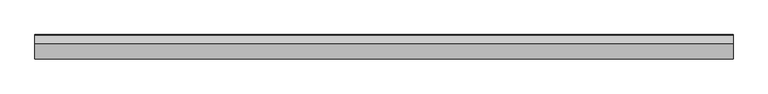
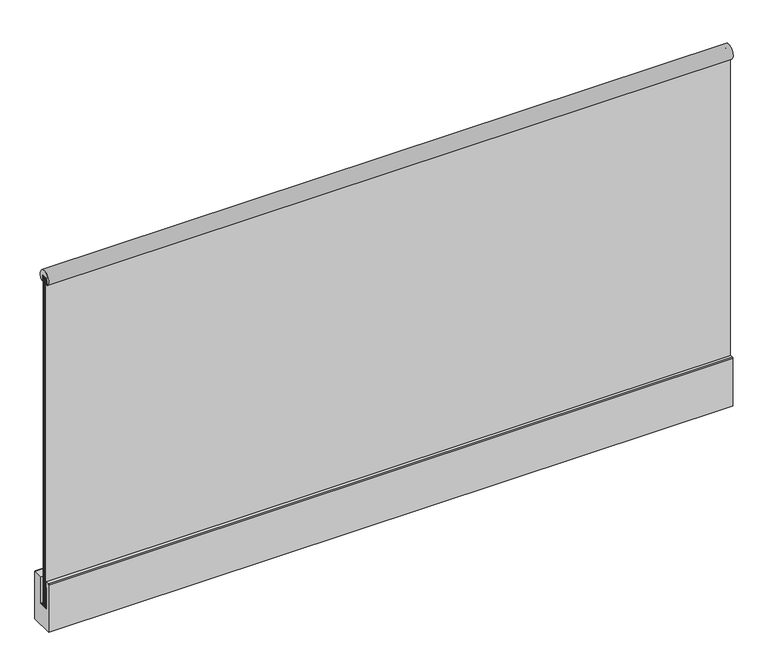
"""IFC4 building model written with IfcOpenShell, lengths in millimetres: railing geometry, Glass Railing (8+8) - Faraone - Ninfa 186 - Fascia mounted - Elipse Handrail 50."""

from ifc_helpers import new_model, si_unit, point, frame, frame_2d, origin, place, context, project, spatial, polyline, circle_curve, trimmed, segment, composite_curve, outline, extrude, source, transform, mapped, element, save


def railing_11fd886b(model_context):
    return source(origin(), model_context, "Body", "SweptSolid", [
        extrude(outline(composite_curve([segment(polyline([(10.0443181, 1066.5209903), (7.0749665, 1066.5209903), (7.0749665, 1085.52)]), True, "CONTINUOUS"), segment(trimmed(circle_curve(frame_2d((3.0749665, 1085.52)), 4.0), [point((7.0749665, 1085.52))], [point((3.0749665, 1089.52))], True, "CARTESIAN"), True, "CONTINUOUS"), segment(polyline([(3.0749665, 1089.52), (-17.6850335, 1089.52)]), True, "CONTINUOUS"), segment(trimmed(circle_curve(frame_2d((-17.6850335, 1085.52)), 4.0), [point((-17.6850335, 1089.52))], [point((-21.6850335, 1085.52))], True, "CARTESIAN"), True, "CONTINUOUS"), segment(polyline([(-21.6850335, 1085.52), (-21.6850335, 1066.5209903), (-24.654385, 1066.5209903)]), True, "CONTINUOUS"), segment(trimmed(circle_curve(frame_2d((-7.3050335, 1084.5209903)), 25.0), [point((-24.654385, 1066.5209903))], [point((10.0443181, 1066.5209903))], False, "CARTESIAN"), True, "CONTINUOUS")], self_intersect=False)), frame((4362.6376845, 0.0, 0.0), z_axis=(1.0, 0.0, 0.0), x_axis=(0.0, 1.0, 0.0)), (0.0, 0.0, 1.0), 2320.0),
        extrude(outline(polyline([(-15.6950335, -92.36), (-15.6950335, 1089.54), (-7.7950335, 1089.54), (-7.7950335, -91.56), (-6.7950335, -91.56), (-6.7950335, 1089.54), (1.1049665, 1089.54), (1.1049665, -92.36), (-15.6950335, -92.36)])), frame((4362.6376845, 0.0, 0.0), z_axis=(1.0, 0.0, 0.0), x_axis=(0.0, 1.0, 0.0)), (0.0, 0.0, 1.0), 2320.0),
        extrude(outline(composite_curve([segment(polyline([(-28.187603, -0.0006325), (-18.2831625, -0.0006325), (-18.2831625, -95.3393625), (13.4930956, -95.3393625), (13.4930956, -0.0006325), (45.9738315, -0.0006325)]), True, "CONTINUOUS"), segment(trimmed(circle_curve(frame_2d((45.9738315, -3.0621312)), 3.0614987), [point((45.9738315, -0.0006325))], [point((49.0353302, -3.0621312))], False, "CARTESIAN"), True, "CONTINUOUS"), segment(polyline([(49.0353302, -3.0621312), (49.0353302, -173.21), (-31.3082032, -173.21), (-31.3082032, -3.1212327)]), True, "CONTINUOUS"), segment(trimmed(circle_curve(frame_2d((-28.187603, -3.1212327)), 3.1206002), [point((-31.3082032, -3.1212327))], [point((-28.187603, -0.0006325))], False, "CARTESIAN"), True, "CONTINUOUS")], self_intersect=False)), frame((4362.6376845, 0.0, 0.0), z_axis=(1.0, 0.0, 0.0), x_axis=(0.0, 1.0, 0.0)), (0.0, 0.0, 1.0), 2320.0),
        extrude(outline(polyline([(-18.2869482, -95.34), (-18.2869482, -20.1108016), (-15.5630002, -20.1108016), (-15.5630002, -92.3609041), (5.1968813, -92.3609041), (5.1968813, -95.34), (-18.2869482, -95.34)])), frame((4362.6376845, 0.0, 0.0), z_axis=(1.0, 0.0, 0.0), x_axis=(0.0, 1.0, 0.0)), (0.0, 0.0, 1.0), 2320.0),
        extrude(outline(polyline([(4362.6376845, -21.6950335), (4362.6376845, -15.6950335), (6682.6376845, -15.6950335), (6682.6376845, -21.6950335), (4362.6376845, -21.6950335)])), frame((0.0, 0.0, 1066.52), z_axis=(0.0, 0.0, 1.0), x_axis=(1.0, 0.0, 0.0)), (0.0, 0.0, 1.0), 17.0),
        extrude(outline(polyline([(4362.6376845, 1.0849665), (4362.6376845, 7.0849665), (6682.6376845, 7.0849665), (6682.6376845, 1.0849665), (4362.6376845, 1.0849665)])), frame((0.0, 0.0, 1066.52), z_axis=(0.0, 0.0, 1.0), x_axis=(1.0, 0.0, 0.0)), (0.0, 0.0, 1.0), 17.0),
        extrude(outline(polyline([(4362.6376845, -18.1150335), (4362.6376845, 3.3849665), (6682.6376845, 3.3849665), (6682.6376845, -18.1150335), (4362.6376845, -18.1150335)])), frame((0.0, 0.0, 1087.02), z_axis=(0.0, 0.0, 1.0), x_axis=(1.0, 0.0, 0.0)), (0.0, 0.0, 1.0), 2.5),
    ])


if __name__ == "__main__":
    model = new_model("IFC4")
    model_context = context("Model", 3, world=origin())
    ifc_project = project(units=[si_unit("LENGTHUNIT", "METRE", prefix="MILLI")], contexts=[model_context])
    site = spatial("IfcSite", under=ifc_project)
    building = spatial("IfcBuilding", under=site)
    placement = place(None, origin())
    railing_shape = railing_11fd886b(model_context)
    element("IfcRailing", 1, ObjectType="Glass Railing (8+8) - Faraone - Ninfa 186 - Fascia mounted - Elipse Handrail 50", at=placement, inside=building, context=model_context, shape_type="MappedRepresentation", body=[
        mapped(railing_shape, transform((0.0, 0.0, 0.0), x_axis=(1.0, 0.0, 0.0), y_axis=(0.0, 1.0, 0.0), z_axis=(0.0, 0.0, 1.0))),
    ])
    save(model, "model.ifc")
